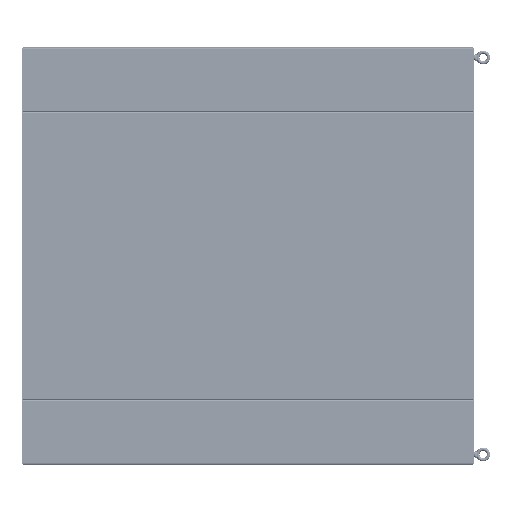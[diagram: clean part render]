
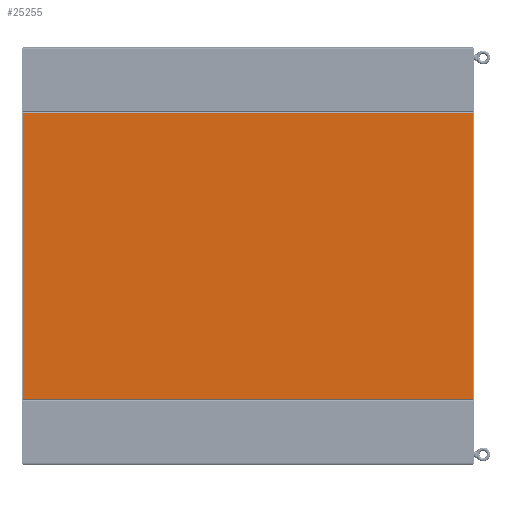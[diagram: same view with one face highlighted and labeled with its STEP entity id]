
A CAD part, left-side view. The second image highlights one B-rep face of the part: STEP entity #25255.
In plain terms, the highlighted planar face has unit normal (-1, 0, 0) as drawn and (0, 0, -1) by its records, which use the part's own axes.
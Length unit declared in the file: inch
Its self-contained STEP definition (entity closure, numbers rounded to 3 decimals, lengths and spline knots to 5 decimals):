
#24779=DIRECTION('',(0.,-1.,0.));
#24780=VECTOR('',#24779,83.75);
#24781=CARTESIAN_POINT('',(-26.5,0.,-0.125));
#24782=LINE('',#24781,#24780);
#24794=DIRECTION('',(1.,0.,0.));
#24795=VECTOR('',#24794,53.);
#24796=CARTESIAN_POINT('',(-26.5,-83.75,-0.125));
#24797=LINE('',#24796,#24795);
#24801=DIRECTION('',(-1.,0.,0.));
#24802=VECTOR('',#24801,53.);
#24803=CARTESIAN_POINT('',(26.5,0.,-0.125));
#24804=LINE('',#24803,#24802);
#24837=DIRECTION('',(0.,1.,0.));
#24838=VECTOR('',#24837,83.75);
#24839=CARTESIAN_POINT('',(26.5,-83.75,-0.125));
#24840=LINE('',#24839,#24838);
#25030=CARTESIAN_POINT('',(-26.5,-83.75,-0.125));
#25031=VERTEX_POINT('',#25030);
#25032=CARTESIAN_POINT('',(-26.5,0.,-0.125));
#25033=VERTEX_POINT('',#25032);
#25046=CARTESIAN_POINT('',(26.5,0.,-0.125));
#25047=VERTEX_POINT('',#25046);
#25048=CARTESIAN_POINT('',(26.5,-83.75,-0.125));
#25049=VERTEX_POINT('',#25048);
#25241=CARTESIAN_POINT('',(0.,0.,-0.125));
#25242=DIRECTION('',(0.,0.,1.));
#25243=DIRECTION('',(1.,0.,0.));
#25244=AXIS2_PLACEMENT_3D('',#25241,#25242,#25243);
#25245=PLANE('',#25244);
#25246=ORIENTED_EDGE('',*,*,#25234,.T.);
#25248=ORIENTED_EDGE('',*,*,#25247,.T.);
#25250=ORIENTED_EDGE('',*,*,#25249,.T.);
#25252=ORIENTED_EDGE('',*,*,#25251,.T.);
#25253=EDGE_LOOP('',(#25246,#25248,#25250,#25252));
#25254=FACE_OUTER_BOUND('',#25253,.F.);
#25234=EDGE_CURVE('',#25033,#25031,#24782,.T.);
#25247=EDGE_CURVE('',#25031,#25049,#24797,.T.);
#25249=EDGE_CURVE('',#25049,#25047,#24840,.T.);
#25251=EDGE_CURVE('',#25047,#25033,#24804,.T.);
#25255=ADVANCED_FACE('',(#25254),#25245,.F.);
